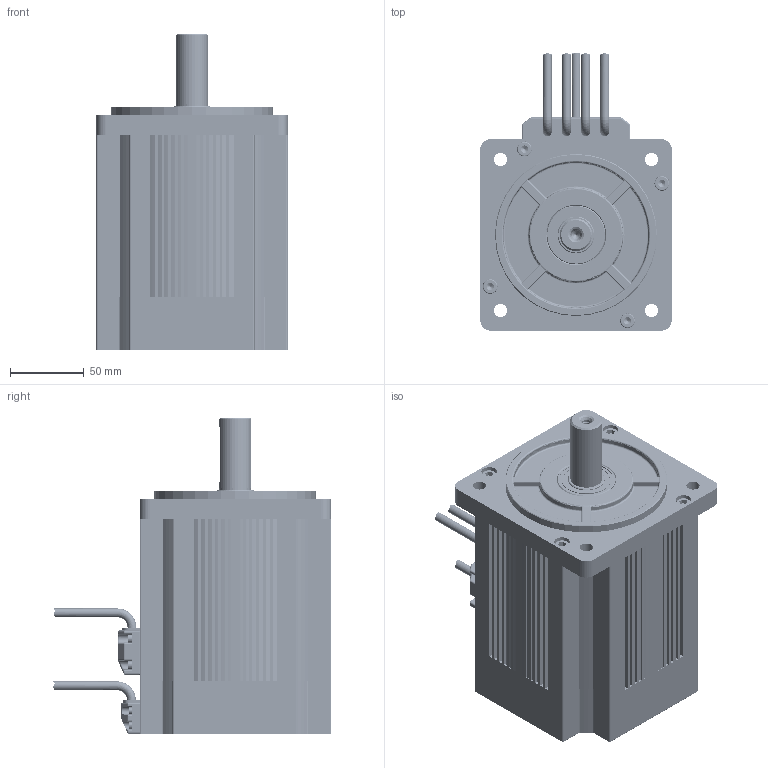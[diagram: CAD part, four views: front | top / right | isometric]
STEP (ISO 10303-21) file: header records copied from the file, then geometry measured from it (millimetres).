
FILE_DESCRIPTION (( 'STEP AP203' ), '1' );
FILE_NAME ('130L60-N-竘盄碟-4盄.STEP', '2022-07-30T08:14:35', ( 'muse' ), ( 'Organization' ), 'SwSTEP 2.0', 'SolidWorks 2018', '' );
FILE_SCHEMA (( 'CONFIG_CONTROL_DESIGN' ));
Length unit declared in the file: millimetre
Products named in the file (1): 130L60-N-竘盄碟-4盄
Bounding box: 130 x 188.82 x 215 mm (x, y, z)
Volume: 886810.7 mm3; surface area: 357975.4 mm2
Topology: 31 solids, 31 shells, 4657 faces, 10198 edges, 5604 vertices
Faces by surface type: cone 1947, cylinder 1609, plane 687, bspline 179, torus 177, sphere 58
Entity records: 130059 total; most frequent: CARTESIAN_POINT 27720, DIRECTION 23299, ORIENTED_EDGE 20212, EDGE_CURVE 10106, AXIS2_PLACEMENT_3D 9193, VERTEX_POINT 5598, LINE 4913, VECTOR 4913
